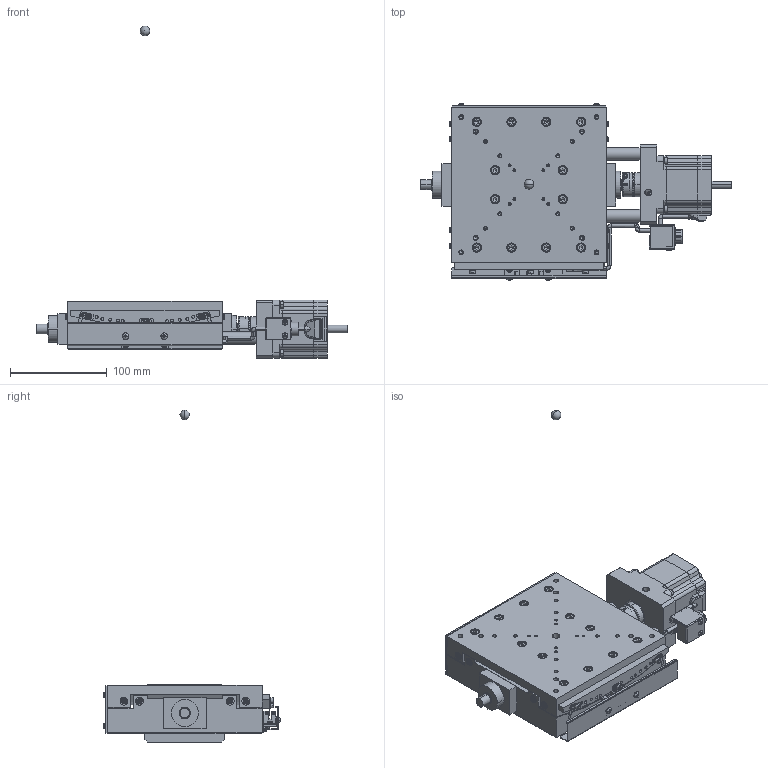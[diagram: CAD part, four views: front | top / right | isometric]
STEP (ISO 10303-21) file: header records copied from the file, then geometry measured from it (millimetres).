
FILE_DESCRIPTION (( 'STEP AP203' ), '1' );
FILE_NAME ('SA16A-RM01-R.STEP', '2019-02-20T06:40:47', ( '' ), ( '' ), 'SwSTEP 2.0', 'SolidWorks 2018', '' );
FILE_SCHEMA (( 'CONFIG_CONTROL_DESIGN' ));
Length unit declared in the file: millimetre
Products named in the file (4): base; SA16A-RM01-R; rotation center; table
Assembly tree (3 placements, depth 2):
  SA16A-RM01-R
    base
    table
    rotation center
Bounding box: 321.5 x 182.87 x 343.6 mm (x, y, z)
Volume: 1546367 mm3; surface area: 236576.4 mm2
Topology: 3 solids, 3 shells, 2876 faces, 7252 edges, 4503 vertices
Faces by surface type: plane 1737, cylinder 703, cone 328, torus 62, sphere 42, bspline 4
Entity records: 86813 total; most frequent: CARTESIAN_POINT 16304, DIRECTION 15071, ORIENTED_EDGE 14282, EDGE_CURVE 7141, AXIS2_PLACEMENT_3D 5217, VECTOR 4637, LINE 4637, VERTEX_POINT 4500
